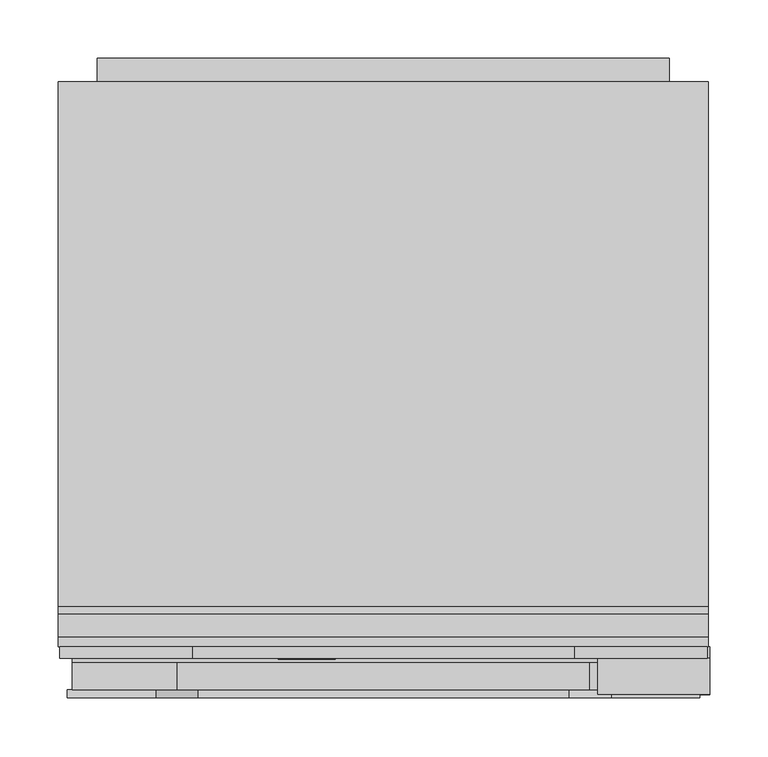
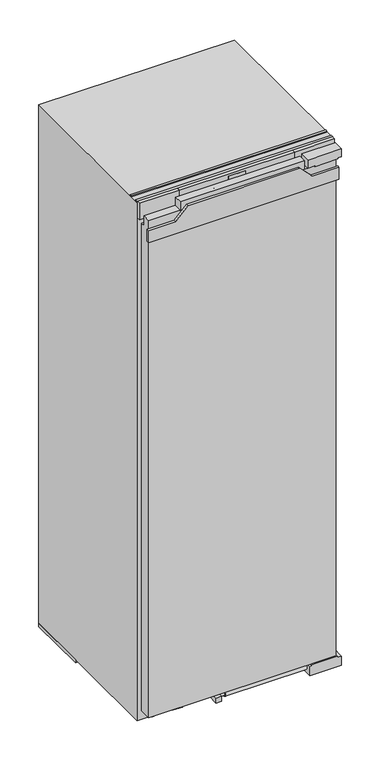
"""IFC4 building model written with IfcOpenShell, lengths in millimetres: proxy geometry, 12444340_CH_K7678D : 36767800_CH_12444340_K7678D."""

from ifc_helpers import new_model, si_unit, point, frame, frame_2d, origin, origin_with_axes, place, context, project, spatial, polyline, circle_curve, ellipse_curve, trimmed, segment, composite_curve, outline, extrude, faceted_brep, source, transform, mapped, element, save
from ifc_brep_helpers import plane_surface, cylinder_surface, revolved_surface, extruded_surface, advanced_brep


def specialty_equipment_4ad7c83d(model_context):
    return source(origin(), model_context, "Body", "SolidModel", [
        advanced_brep(
        [(-46.64, 33.0, 1543.896), (-46.64, 33.0, 1544.704), (-41.288, 33.0, 1544.704), (-50.6, 33.0, 1544.704), (-48.4, 33.0, 1542.0), (-41.424, 33.0, 1543.896), (-43.84, 33.0, 1543.896), (-45.744, 33.0, 1543.0), (-46.64, 33.0, 1545.728), (-46.64, 33.0, 1546.6), (-45.272, 33.0, 1546.6), (-45.272, 33.0, 1545.728), (-46.64, 34.0, 1543.896), (-45.744, 34.0, 1543.0), (-43.84, 34.0, 1543.896), (-41.424, 34.0, 1543.896), (-48.4, 34.0, 1542.0), (-50.6, 34.0, 1544.704), (-41.288, 34.0, 1544.704), (-46.64, 34.0, 1544.704), (-46.64, 34.0, 1545.728), (-45.272, 34.0, 1545.728), (-45.272, 34.0, 1546.6), (-46.64, 34.0, 1546.6)],
        [
            (0, 1),
            (1, 2),
            (2, 3, ellipse_curve(frame((-45.944, 33.0, 1544.704), z_axis=(0.0, -1.0, 0.0), x_axis=(-1.0, 0.0, 0.0)), 4.656, 3.848)),
            (3, 4, circle_curve(frame((-47.5039564, 33.0, 1544.976), z_axis=(0.0, -1.0, 0.0), x_axis=(0.0, 0.0, -1.0)), 3.1079688)),
            (4, 5, circle_curve(frame((-46.0372064, 33.0, 1547.088), z_axis=(0.0, -1.0, 0.0), x_axis=(0.0, 0.0, -1.0)), 5.6098607)),
            (5, 6),
            (6, 7, circle_curve(frame((-45.3529412, 33.0, 1544.64), z_axis=(0.0, 1.0, 0.0), x_axis=(0.0, 0.0, -1.0)), 1.6859795)),
            (7, 0, circle_curve(frame((-45.744, 33.0, 1543.896), z_axis=(0.0, 1.0, 0.0), x_axis=(0.0, 0.0, -1.0)), 0.896)),
            (8, 9),
            (9, 10, circle_curve(frame((-45.956, 33.0, 1546.6), z_axis=(0.0, 1.0, 0.0), x_axis=(0.0, 0.0, -1.0)), 0.684)),
            (10, 11),
            (11, 8),
            (12, 13, circle_curve(frame((-45.744, 34.0, 1543.896), z_axis=(0.0, -1.0, 0.0), x_axis=(0.0, 0.0, -1.0)), 0.896)),
            (13, 14, circle_curve(frame((-45.3529412, 34.0, 1544.64), z_axis=(0.0, -1.0, 0.0), x_axis=(0.0, 0.0, -1.0)), 1.6859795)),
            (14, 15),
            (15, 16, circle_curve(frame((-46.0372064, 34.0, 1547.088), z_axis=(0.0, 1.0, 0.0), x_axis=(0.0, 0.0, -1.0)), 5.6098607)),
            (16, 17, circle_curve(frame((-47.5039564, 34.0, 1544.976), z_axis=(0.0, 1.0, 0.0), x_axis=(0.0, 0.0, -1.0)), 3.1079688)),
            (17, 18, ellipse_curve(frame((-45.944, 34.0, 1544.704), z_axis=(0.0, 1.0, 0.0), x_axis=(-1.0, 0.0, 0.0)), 4.656, 3.848)),
            (18, 19),
            (19, 12),
            (20, 21),
            (21, 22),
            (22, 23, circle_curve(frame((-45.956, 34.0, 1546.6), z_axis=(0.0, -1.0, 0.0), x_axis=(0.0, 0.0, -1.0)), 0.684)),
            (23, 20),
            (0, 12),
            (19, 1),
            (18, 2),
            (5, 15),
            (14, 6),
            (17, 3),
            (13, 7),
            (16, 4),
            (8, 20),
            (23, 9),
            (22, 10),
            (21, 11),
        ],
        [
            plane_surface(frame((-46.64, 33.0, 1544.704), z_axis=(0.0, -1.0, 0.0), x_axis=(0.0, 0.0, 1.0))),
            plane_surface(frame((-46.64, 34.0, 1544.704), z_axis=(0.0, 1.0, 0.0), x_axis=(0.0, 0.0, -1.0))),
            plane_surface(frame((-46.64, 33.0, 1543.896), z_axis=(1.0, 0.0, 0.0), x_axis=(0.0, 1.0, 0.0))),
            plane_surface(frame((-46.64, 33.0, 1544.704), z_axis=(0.0, 0.0, -1.0), x_axis=(0.0, 1.0, 0.0))),
            plane_surface(frame((-41.424, 33.0, 1543.896), z_axis=(0.0, 0.0, 1.0), x_axis=(0.0, 1.0, 0.0))),
            extruded_surface(trimmed(ellipse_curve(frame((-45.944, 35.0, 1544.704), z_axis=(0.0, -1.0, 0.0), x_axis=(-1.0, 0.0, 0.0)), 4.656, 3.848), [point((-41.288, 35.0, 1544.704))], [point((-50.6, 35.0, 1544.704))], True, "CARTESIAN"), (0.0, -1.0, 0.0), 1.0),
            revolved_surface(polyline([(-45.3529412, 34.0, 1542.9540205), (-45.3529412, 33.0, 1542.9540205)]), (-45.3529412, 34.0, 1544.64), (0.0, 1.0, 0.0)),
            revolved_surface(polyline([(-45.744, 34.0, 1543.0), (-45.744, 33.0, 1543.0)]), (-45.744, 34.0, 1543.896), (0.0, 1.0, 0.0)),
            cylinder_surface(frame((-47.5039564, 34.0, 1544.976), z_axis=(0.0, -1.0, 0.0), x_axis=(0.0, 0.0, -1.0)), 3.1079688),
            cylinder_surface(frame((-46.0372064, 34.0, 1547.088), z_axis=(0.0, -1.0, 0.0), x_axis=(0.0, 0.0, -1.0)), 5.6098607),
            plane_surface(frame((-46.64, 33.0, 1545.728), z_axis=(1.0, 0.0, 0.0), x_axis=(0.0, 1.0, 0.0))),
            revolved_surface(polyline([(-45.956, 34.0, 1545.916), (-45.956, 33.0, 1545.916)]), (-45.956, 34.0, 1546.6), (0.0, 1.0, 0.0)),
            plane_surface(frame((-45.272, 33.0, 1546.6), z_axis=(-1.0, 0.0, 0.0), x_axis=(0.0, 1.0, 0.0))),
            plane_surface(frame((-45.272, 33.0, 1545.728), z_axis=(0.0, 0.0, 1.0), x_axis=(0.0, 1.0, 0.0))),
        ],
        [
            (0, [[1, 2, 3, 4, 5, 6, 7, 8], [9, 10, 11, 12]]),
            (1, [[13, 14, 15, 16, 17, 18, 19, 20], [21, 22, 23, 24]]),
            (2, [[-1, 25, -20, 26]]),
            (3, [[-2, -26, -19, 27]]),
            (4, [[-6, 28, -15, 29]]),
            (5, [[-3, -27, -18, 30]]),
            (6, [[-7, -29, -14, 31]]),
            (7, [[-8, -31, -13, -25]]),
            (8, [[-4, -30, -17, 32]]),
            (9, [[-5, -32, -16, -28]]),
            (10, [[-9, 33, -24, 34]]),
            (11, [[-10, -34, -23, 35]]),
            (12, [[-11, -35, -22, 36]]),
            (13, [[-12, -36, -21, -33]]),
        ],
    ),
        advanced_brep(
        [(-63.336, 33.0, 1543.896), (-63.336, 33.0, 1544.704), (-57.984, 33.0, 1544.704), (-67.296, 33.0, 1544.704), (-65.096, 33.0, 1542.0), (-58.12, 33.0, 1543.896), (-60.536, 33.0, 1543.896), (-62.44, 33.0, 1543.0), (-63.336, 33.0, 1545.728), (-63.336, 33.0, 1546.6), (-61.968, 33.0, 1546.6), (-61.968, 33.0, 1545.728), (-63.336, 34.0, 1543.896), (-62.44, 34.0, 1543.0), (-60.536, 34.0, 1543.896), (-58.12, 34.0, 1543.896), (-65.096, 34.0, 1542.0), (-67.296, 34.0, 1544.704), (-57.984, 34.0, 1544.704), (-63.336, 34.0, 1544.704), (-63.336, 34.0, 1545.728), (-61.968, 34.0, 1545.728), (-61.968, 34.0, 1546.6), (-63.336, 34.0, 1546.6)],
        [
            (0, 1),
            (1, 2),
            (2, 3, ellipse_curve(frame((-62.64, 33.0, 1544.704), z_axis=(0.0, -1.0, 0.0), x_axis=(-1.0, 0.0, 0.0)), 4.656, 3.848)),
            (3, 4, circle_curve(frame((-64.1999564, 33.0, 1544.976), z_axis=(0.0, -1.0, 0.0), x_axis=(0.0, 0.0, -1.0)), 3.1079688)),
            (4, 5, circle_curve(frame((-62.7332064, 33.0, 1547.088), z_axis=(0.0, -1.0, 0.0), x_axis=(0.0, 0.0, -1.0)), 5.6098607)),
            (5, 6),
            (6, 7, circle_curve(frame((-62.0489412, 33.0, 1544.64), z_axis=(0.0, 1.0, 0.0), x_axis=(0.0, 0.0, -1.0)), 1.6859795)),
            (7, 0, circle_curve(frame((-62.44, 33.0, 1543.896), z_axis=(0.0, 1.0, 0.0), x_axis=(0.0, 0.0, -1.0)), 0.896)),
            (8, 9),
            (9, 10, circle_curve(frame((-62.652, 33.0, 1546.6), z_axis=(0.0, 1.0, 0.0), x_axis=(0.0, 0.0, -1.0)), 0.684)),
            (10, 11),
            (11, 8),
            (12, 13, circle_curve(frame((-62.44, 34.0, 1543.896), z_axis=(0.0, -1.0, 0.0), x_axis=(0.0, 0.0, -1.0)), 0.896)),
            (13, 14, circle_curve(frame((-62.0489412, 34.0, 1544.64), z_axis=(0.0, -1.0, 0.0), x_axis=(0.0, 0.0, -1.0)), 1.6859795)),
            (14, 15),
            (15, 16, circle_curve(frame((-62.7332064, 34.0, 1547.088), z_axis=(0.0, 1.0, 0.0), x_axis=(0.0, 0.0, -1.0)), 5.6098607)),
            (16, 17, circle_curve(frame((-64.1999564, 34.0, 1544.976), z_axis=(0.0, 1.0, 0.0), x_axis=(0.0, 0.0, -1.0)), 3.1079688)),
            (17, 18, ellipse_curve(frame((-62.64, 34.0, 1544.704), z_axis=(0.0, 1.0, 0.0), x_axis=(-1.0, 0.0, 0.0)), 4.656, 3.848)),
            (18, 19),
            (19, 12),
            (20, 21),
            (21, 22),
            (22, 23, circle_curve(frame((-62.652, 34.0, 1546.6), z_axis=(0.0, -1.0, 0.0), x_axis=(0.0, 0.0, -1.0)), 0.684)),
            (23, 20),
            (0, 12),
            (19, 1),
            (18, 2),
            (5, 15),
            (14, 6),
            (17, 3),
            (13, 7),
            (16, 4),
            (8, 20),
            (23, 9),
            (22, 10),
            (21, 11),
        ],
        [
            plane_surface(frame((-63.336, 33.0, 1544.704), z_axis=(0.0, -1.0, 0.0), x_axis=(0.0, 0.0, 1.0))),
            plane_surface(frame((-63.336, 34.0, 1544.704), z_axis=(0.0, 1.0, 0.0), x_axis=(0.0, 0.0, -1.0))),
            plane_surface(frame((-63.336, 33.0, 1543.896), z_axis=(1.0, 0.0, 0.0), x_axis=(0.0, 1.0, 0.0))),
            plane_surface(frame((-63.336, 33.0, 1544.704), z_axis=(0.0, 0.0, -1.0), x_axis=(0.0, 1.0, 0.0))),
            plane_surface(frame((-58.12, 33.0, 1543.896), z_axis=(0.0, 0.0, 1.0), x_axis=(0.0, 1.0, 0.0))),
            extruded_surface(trimmed(ellipse_curve(frame((-62.64, 35.0, 1544.704), z_axis=(0.0, -1.0, 0.0), x_axis=(-1.0, 0.0, 0.0)), 4.656, 3.848), [point((-57.984, 35.0, 1544.704))], [point((-67.296, 35.0, 1544.704))], True, "CARTESIAN"), (0.0, -1.0, 0.0), 1.0),
            revolved_surface(polyline([(-62.0489412, 34.0, 1542.9540205), (-62.0489412, 33.0, 1542.9540205)]), (-62.0489412, 34.0, 1544.64), (0.0, 1.0, 0.0)),
            revolved_surface(polyline([(-62.44, 34.0, 1543.0), (-62.44, 33.0, 1543.0)]), (-62.44, 34.0, 1543.896), (0.0, 1.0, 0.0)),
            cylinder_surface(frame((-64.1999564, 34.0, 1544.976), z_axis=(0.0, -1.0, 0.0), x_axis=(0.0, 0.0, -1.0)), 3.1079688),
            cylinder_surface(frame((-62.7332064, 34.0, 1547.088), z_axis=(0.0, -1.0, 0.0), x_axis=(0.0, 0.0, -1.0)), 5.6098607),
            plane_surface(frame((-63.336, 33.0, 1545.728), z_axis=(1.0, 0.0, 0.0), x_axis=(0.0, 1.0, 0.0))),
            revolved_surface(polyline([(-62.652, 34.0, 1545.916), (-62.652, 33.0, 1545.916)]), (-62.652, 34.0, 1546.6), (0.0, 1.0, 0.0)),
            plane_surface(frame((-61.968, 33.0, 1546.6), z_axis=(-1.0, 0.0, 0.0), x_axis=(0.0, 1.0, 0.0))),
            plane_surface(frame((-61.968, 33.0, 1545.728), z_axis=(0.0, 0.0, 1.0), x_axis=(0.0, 1.0, 0.0))),
        ],
        [
            (0, [[1, 2, 3, 4, 5, 6, 7, 8], [9, 10, 11, 12]]),
            (1, [[13, 14, 15, 16, 17, 18, 19, 20], [21, 22, 23, 24]]),
            (2, [[-1, 25, -20, 26]]),
            (3, [[-2, -26, -19, 27]]),
            (4, [[-6, 28, -15, 29]]),
            (5, [[-3, -27, -18, 30]]),
            (6, [[-7, -29, -14, 31]]),
            (7, [[-8, -31, -13, -25]]),
            (8, [[-4, -30, -17, 32]]),
            (9, [[-5, -32, -16, -28]]),
            (10, [[-9, 33, -24, 34]]),
            (11, [[-10, -34, -23, 35]]),
            (12, [[-11, -35, -22, 36]]),
            (13, [[-12, -36, -21, -33]]),
        ],
    ),
        extrude(outline(polyline([(1549.528, -72.08), (1548.232, -71.472), (1549.496, -68.76), (1550.792, -69.36), (1549.528, -72.08)])), frame((0.0, 33.0, 0.0), z_axis=(0.0, 1.0, 0.0), x_axis=(0.0, 0.0, 1.0)), (0.0, 0.0, 1.0), 1.0),
        extrude(outline(polyline([(1548.056, -74.056), (1546.624, -74.056), (1546.624, -73.104), (1543.344, -73.104), (1543.344, -74.056), (1542.0, -74.056), (1542.0, -67.744), (1543.344, -67.744), (1543.344, -68.672), (1548.056, -68.672), (1548.056, -74.056)])), frame((0.0, 33.0, 0.0), z_axis=(0.0, 1.0, 0.0), x_axis=(0.0, 0.0, 1.0)), (0.0, 0.0, 1.0), 1.0),
        extrude(outline(polyline([(1548.696, -57.536), (1548.696, -56.576), (1543.344, -56.576), (1543.344, -57.536), (1542.0, -57.536), (1542.0, -51.048), (1543.344, -51.048), (1543.344, -52.032), (1550.0, -52.032), (1550.0, -57.536), (1548.696, -57.536)])), frame((0.0, 33.0, 0.0), z_axis=(0.0, 1.0, 0.0), x_axis=(0.0, 0.0, 1.0)), (0.0, 0.0, 1.0), 1.0),
        extrude(outline(polyline([(1548.696, -90.0), (1548.696, -89.032), (1543.344, -89.032), (1543.344, -90.0), (1542.0, -90.0), (1542.0, -86.48), (1543.344, -86.48), (1543.344, -87.44), (1546.7471247, -87.44), (1542.0, -83.864), (1546.8152223, -80.272), (1543.344, -80.272), (1543.344, -81.256), (1542.0, -81.256), (1542.0, -74.872), (1543.344, -74.872), (1543.344, -75.888), (1548.696, -75.888), (1548.696, -74.872), (1550.0, -74.872), (1550.0, -79.744), (1547.0, -82.08), (1550.0, -84.424), (1550.0, -90.0), (1548.696, -90.0)])), frame((0.0, 33.0, 0.0), z_axis=(0.0, 1.0, 0.0), x_axis=(0.0, 0.0, 1.0)), (0.0, 0.0, 1.0), 1.0),
        faceted_brep([(163.5, 34.0, 1571.0), (-163.5, 34.0, 1571.0), (-163.5, 34.0, 1522.0), (163.5, 34.0, 1522.0), (24.5, 34.0, 1564.0), (24.5, 34.0, 1528.0), (-24.5, 34.0, 1528.0), (-24.5, 34.0, 1564.0), (163.5, 44.0, 1571.0), (163.5, 44.0, 1522.0), (-163.5, 44.0, 1522.0), (-163.5, 44.0, 1571.0), (24.5, 35.0, 1564.0), (-24.5, 35.0, 1564.0), (-24.5, 35.0, 1528.0), (24.5, 35.0, 1528.0)], [[[0, 1, 2, 3], [4, 5, 6, 7]], [[8, 9, 10, 11]], [[0, 3, 9, 8]], [[3, 2, 10, 9]], [[2, 1, 11, 10]], [[1, 0, 8, 11]], [[12, 13, 14, 15]], [[12, 15, 5, 4]], [[15, 14, 6, 5]], [[14, 13, 7, 6]], [[13, 12, 4, 7]]]),
        extrude(outline(polyline([(163.5, 44.0), (277.5, 44.0), (277.5, 34.0), (163.5, 34.0), (163.5, 44.0)])), frame((0.0, 0.0, 1522.0), z_axis=(0.0, 0.0, 1.0), x_axis=(1.0, 0.0, 0.0)), (0.0, 0.0, 1.0), 49.0),
        extrude(outline(polyline([(-277.5, 44.0), (-163.5, 44.0), (-163.5, 34.0), (-277.5, 34.0), (-277.5, 44.0)])), frame((0.0, 0.0, 1522.0), z_axis=(0.0, 0.0, 1.0), x_axis=(1.0, 0.0, 0.0)), (0.0, 0.0, 1.0), 49.0),
        extrude(outline(polyline([(-24.5, 35.0), (24.5, 35.0), (24.5, 34.0), (-24.5, 34.0), (-24.5, 35.0)])), frame((0.0, 0.0, 1528.0), z_axis=(0.0, 0.0, 1.0), x_axis=(1.0, 0.0, 0.0)), (0.0, 0.0, 1.0), 36.0),
        extrude(outline(polyline([(1448.0, -245.0), (27.0, -245.0), (27.0, 245.0), (130.0, 245.0), (130.0, 180.0), (160.0, 180.0), (160.0, 245.0), (1448.0, 245.0), (1448.0, -245.0)])), frame((0.0, 528.0, 0.0), z_axis=(0.0, 1.0, 0.0), x_axis=(0.0, 0.0, 1.0)), (0.0, 0.0, 1.0), 20.0),
        extrude(outline(polyline([(-144.9306211, 52.0), (-174.0, 52.0), (-194.4871197, 348.0), (-165.4177409, 348.0), (-144.9306211, 52.0)])), origin_with_axes(), (0.0, 0.0, 1.0), 10.0),
        extrude(outline(polyline([(144.9306211, 52.0), (165.4177409, 348.0), (194.4871197, 348.0), (174.0, 52.0), (144.9306211, 52.0)])), origin_with_axes(), (0.0, 0.0, 1.0), 10.0),
        extrude(outline(polyline([(539.651012, 148.8988246), (539.651012, 150.150839), (546.8850603, 150.150839), (546.8850603, 140.1043073), (539.5027529, 140.1043073), (539.5027529, 141.3585545), (545.6152499, 141.3585545), (545.6152499, 144.6556887), (539.967462, 144.6556887), (539.967462, 145.9162842), (545.6270824, 145.9162842), (545.6270824, 148.8988246), (539.651012, 148.8988246)])), frame((193.5, 0.0, 0.0), z_axis=(1.0, 0.0, 0.0), x_axis=(0.0, 1.0, 0.0)), (0.0, 0.0, 1.0), 1.0),
        extrude(outline(polyline([(537.624075, 150.150839), (537.624075, 140.1043073), (531.3334819, 140.1043073), (531.3334819, 141.3573374), (536.3334819, 141.3573374), (536.3334819, 150.150839), (537.624075, 150.150839)])), frame((193.5, 0.0, 0.0), z_axis=(1.0, 0.0, 0.0), x_axis=(0.0, 1.0, 0.0)), (0.0, 0.0, 1.0), 1.0),
        advanced_brep(
        [(232.0, 528.0, 145.0), (217.0, 528.0, 145.0), (232.0, 547.5, 145.0), (217.0, 532.5, 145.0), (194.5, 547.5, 145.0), (194.5, 532.5, 145.0)],
        [
            (0, 1, circle_curve(frame((224.5, 528.0, 145.0), z_axis=(0.0, -1.0, 0.0), x_axis=(-1.0, 0.0, 0.0)), 7.5)),
            (1, 0, circle_curve(frame((224.5, 528.0, 145.0), z_axis=(0.0, -1.0, 0.0), x_axis=(-1.0, 0.0, 0.0)), 7.5)),
            (0, 2),
            (2, 3, ellipse_curve(frame((224.5, 540.0, 145.0), z_axis=(0.7071067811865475, -0.7071067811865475, 0.0), x_axis=(-0.7071067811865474, -0.7071067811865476, 0.0)), 10.6066017, 7.5)),
            (3, 1),
            (3, 2, ellipse_curve(frame((224.5, 540.0, 145.0), z_axis=(0.7071067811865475, -0.7071067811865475, 0.0), x_axis=(-0.7071067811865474, -0.7071067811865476, 0.0)), 10.6066017, 7.5)),
            (4, 5, circle_curve(frame((194.5, 540.0, 145.0), z_axis=(-1.0, 0.0, 0.0), x_axis=(0.0, -1.0, 0.0)), 7.5)),
            (5, 4, circle_curve(frame((194.5, 540.0, 145.0), z_axis=(-1.0, 0.0, 0.0), x_axis=(0.0, -1.0, 0.0)), 7.5)),
            (2, 4),
            (5, 3),
        ],
        [
            plane_surface(frame((224.5, 528.0, 145.0), z_axis=(0.0, -1.0, 0.0), x_axis=(0.0, 0.0, 1.0))),
            cylinder_surface(frame((224.5, 528.0, 145.0), z_axis=(0.0, -1.0, 0.0), x_axis=(-1.0, 0.0, 0.0)), 7.5),
            plane_surface(frame((194.5, 540.0, 145.0), z_axis=(-1.0, 0.0, 0.0), x_axis=(0.0, 0.0, 1.0))),
            cylinder_surface(frame((224.5, 540.0, 145.0), z_axis=(1.0, 0.0, 0.0), x_axis=(0.0, -1.0, 0.0)), 7.5),
        ],
        [
            (0, [[1, 2]]),
            (1, [[-1, 3, 4, 5]]),
            (1, [[-2, -5, 6, -3]]),
            (2, [[7, 8]]),
            (3, [[-4, 9, -8, 10]]),
            (3, [[-6, -10, -7, -9]]),
        ],
    ),
        extrude(outline(polyline([(-34.0, 44.0), (34.0, 44.0), (34.0, 35.0), (-34.0, 35.0), (-34.0, 44.0)])), frame((0.0, 0.0, 13.0), z_axis=(0.0, 0.0, 1.0), x_axis=(1.0, 0.0, 0.0)), (0.0, 0.0, 1.0), 19.0),
        extrude(outline(polyline([(-233.5, 44.0), (-233.5, 488.0), (233.5, 488.0), (233.5, 44.0), (-233.5, 44.0)])), frame((0.0, 0.0, 477.0), z_axis=(0.0, 0.0, 1.0), x_axis=(1.0, 0.0, 0.0)), (0.0, 0.0, 1.0), 3.0),
        extrude(outline(polyline([(-233.5, 180.0), (-233.5, 488.0), (233.5, 488.0), (233.5, 180.0), (-233.5, 180.0)])), frame((0.0, 0.0, 1168.0), z_axis=(0.0, 0.0, 1.0), x_axis=(1.0, 0.0, 0.0)), (0.0, 0.0, 1.0), 325.0),
        extrude(outline(polyline([(-233.5, 350.0), (-233.5, 488.0), (233.5, 488.0), (233.5, 350.0), (-233.5, 350.0)])), frame((0.0, 0.0, 62.0), z_axis=(0.0, 0.0, 1.0), x_axis=(1.0, 0.0, 0.0)), (0.0, 0.0, 1.0), 188.0),
        extrude(outline(composite_curve([segment(trimmed(circle_curve(frame_2d((228.0, 64.0)), 11.0), [point((239.0, 64.0))], [point((217.0, 64.0))], False, "CARTESIAN"), True, "CONTINUOUS"), segment(trimmed(circle_curve(frame_2d((228.0, 64.0)), 11.0), [point((217.0, 64.0))], [point((239.0, 64.0))], False, "CARTESIAN"), True, "CONTINUOUS")], self_intersect=False)), origin_with_axes(), (0.0, 0.0, 1.0), 10.0),
        extrude(outline(composite_curve([segment(trimmed(circle_curve(frame_2d((-228.0, 64.0)), 11.0), [point((-217.0, 64.0))], [point((-239.0, 64.0))], False, "CARTESIAN"), True, "CONTINUOUS"), segment(trimmed(circle_curve(frame_2d((-228.0, 64.0)), 11.0), [point((-239.0, 64.0))], [point((-217.0, 64.0))], False, "CARTESIAN"), True, "CONTINUOUS")], self_intersect=False)), origin_with_axes(), (0.0, 0.0, 1.0), 10.0),
        extrude(outline(polyline([(278.5, 528.0), (278.5, 348.0), (-278.5, 348.0), (-278.5, 528.0), (278.5, 528.0)])), origin_with_axes(), (0.0, 0.0, 1.0), 10.0),
        extrude(outline(polyline([(278.5, 52.0), (278.5, 44.0), (-278.5, 44.0), (-278.5, 52.0), (278.5, 52.0)])), frame((0.0, 0.0, 1568.0), z_axis=(0.0, 0.0, 1.0), x_axis=(1.0, 0.0, 0.0)), (0.0, 0.0, 1.0), 3.0),
        extrude(outline(polyline([(278.5, 78.0), (278.5, 72.0), (-278.5, 72.0), (-278.5, 78.0), (278.5, 78.0)])), frame((0.0, 0.0, 1568.0), z_axis=(0.0, 0.0, 1.0), x_axis=(1.0, 0.0, 0.0)), (0.0, 0.0, 1.0), 3.0),
        faceted_brep([(278.5, 528.0, 1568.0), (-278.5, 528.0, 1568.0), (-278.5, 44.0, 1568.0), (278.5, 44.0, 1568.0), (278.5, 528.0, 10.0), (278.5, 44.0, 10.0), (-278.5, 44.0, 10.0), (-278.5, 528.0, 10.0), (233.5, 44.0, 62.0), (-233.5, 44.0, 62.0), (-233.5, 44.0, 570.0), (-233.5, 44.0, 1493.0), (233.5, 44.0, 1493.0), (233.5, 44.0, 570.0), (233.5, 488.0, 1493.0), (-233.5, 488.0, 1493.0), (-233.5, 488.0, 570.0), (-233.5, 488.0, 62.0), (233.5, 488.0, 62.0), (233.5, 488.0, 570.0)], [[[0, 1, 2, 3]], [[4, 5, 6, 7]], [[1, 0, 4, 7]], [[2, 1, 7, 6]], [[3, 2, 6, 5], [8, 9, 10, 11, 12, 13]], [[0, 3, 5, 4]], [[14, 15, 16, 17, 18, 19]], [[18, 8, 13, 12, 14, 19]], [[18, 17, 9, 8]], [[9, 17, 16, 15, 11, 10]], [[15, 14, 12, 11]]]),
        extrude(outline(polyline([(1472.0, 271.0), (1508.0, 271.0), (1508.0, 195.0), (1544.0, 159.0), (1544.0, -159.0), (1508.0, -195.0), (1508.0, -271.0), (1472.0, -271.0), (1472.0, 271.0)])), frame((0.0, 0.0, 0.0), z_axis=(0.0, 1.0, 0.0), x_axis=(0.0, 0.0, 1.0)), (0.0, 0.0, 1.0), 7.0),
        extrude(outline(composite_curve([segment(trimmed(circle_curve(frame_2d((-65.5, 25.0)), 6.5), [point((-72.0, 25.0))], [point((-59.0, 25.0))], False, "CARTESIAN"), True, "CONTINUOUS"), segment(trimmed(circle_curve(frame_2d((-65.5, 25.0)), 6.5), [point((-59.0, 25.0))], [point((-72.0, 25.0))], False, "CARTESIAN"), True, "CONTINUOUS")], self_intersect=False)), frame((0.0, 0.0, 29.0), z_axis=(0.0, 0.0, 1.0), x_axis=(1.0, 0.0, 0.0)), (0.0, 0.0, 1.0), 9.0),
        extrude(outline(polyline([(-74.0, 42.0), (-59.0, 42.0), (-59.0, 8.0), (-74.0, 8.0), (-74.0, 42.0)])), frame((0.0, 0.0, 14.0), z_axis=(0.0, 0.0, 1.0), x_axis=(1.0, 0.0, 0.0)), (0.0, 0.0, 1.0), 15.0),
        extrude(outline(polyline([(176.5, 7.0), (-176.5, 7.0), (-176.5, 30.0), (176.5, 30.0), (176.5, 7.0)])), frame((0.0, 0.0, 1532.0), z_axis=(0.0, 0.0, 1.0), x_axis=(1.0, 0.0, 0.0)), (0.0, 0.0, 1.0), 25.0),
        extrude(outline(polyline([(7.0, 38.0), (7.0, 1532.0), (30.0, 1532.0), (30.0, 1502.0), (44.0, 1502.0), (44.0, 38.0), (7.0, 38.0)])), frame((-266.5, 0.0, 0.0), z_axis=(1.0, 0.0, 0.0), x_axis=(0.0, 1.0, 0.0)), (0.0, 0.0, 1.0), 533.0),
        extrude(outline(polyline([(34.0, 189.5), (7.0, 189.5), (7.0, 279.5), (34.0, 279.5), (34.0, 268.5), (38.0, 268.5), (38.0, 195.5), (34.0, 195.5), (34.0, 189.5)])), frame((0.0, 3.0, 0.0), z_axis=(0.0, 1.0, 0.0), x_axis=(0.0, 0.0, 1.0)), (0.0, 0.0, 1.0), 41.0),
        extrude(outline(polyline([(1532.0, 203.5), (1532.0, 269.5), (1535.0, 269.5), (1535.0, 279.5), (1559.0, 279.5), (1559.0, 183.5), (1535.0, 183.5), (1535.0, 203.5), (1532.0, 203.5)])), frame((0.0, 3.0, 0.0), z_axis=(0.0, 1.0, 0.0), x_axis=(0.0, 0.0, 1.0)), (0.0, 0.0, 1.0), 31.0),
        extrude(outline(composite_curve([segment(trimmed(circle_curve(frame_2d((25.0, 23.0)), 6.0), [point((25.0, 29.0))], [point((25.0, 17.0))], False, "CARTESIAN"), True, "CONTINUOUS"), segment(trimmed(circle_curve(frame_2d((25.0, 23.0)), 6.0), [point((25.0, 17.0))], [point((25.0, 29.0))], False, "CARTESIAN"), True, "CONTINUOUS")], self_intersect=False)), frame((-59.0, 0.0, 0.0), z_axis=(1.0, 0.0, 0.0), x_axis=(0.0, 1.0, 0.0)), (0.0, 0.0, 1.0), 16.0),
        extrude(outline(composite_curve([segment(trimmed(circle_curve(frame_2d((25.0, 23.0)), 9.0), [point((25.0, 32.0))], [point((25.0, 14.0))], False, "CARTESIAN"), True, "CONTINUOUS"), segment(trimmed(circle_curve(frame_2d((25.0, 23.0)), 9.0), [point((25.0, 14.0))], [point((25.0, 32.0))], False, "CARTESIAN"), True, "CONTINUOUS")], self_intersect=False)), frame((-43.0, 0.0, 0.0), z_axis=(1.0, 0.0, 0.0), x_axis=(0.0, 1.0, 0.0)), (0.0, 0.0, 1.0), 232.5),
    ])


if __name__ == "__main__":
    model = new_model("IFC4")
    model_context = context("Model", 3, world=origin())
    ifc_project = project(units=[si_unit("LENGTHUNIT", "METRE", prefix="MILLI")], contexts=[model_context])
    site = spatial("IfcSite", under=ifc_project)
    building = spatial("IfcBuilding", under=site)
    placement = place(None, origin())
    specialty_equipment_shape = specialty_equipment_4ad7c83d(model_context)
    element("IfcBuildingElementProxy", 1, Name="12444340_CH_K7678D : 36767800_CH_12444340_K7678D", ObjectType="12444340_CH_K7678D : 36767800_CH_12444340_K7678D", at=placement, inside=building, context=model_context, shape_type="MappedRepresentation", body=[
        mapped(specialty_equipment_shape, transform((0.0, 0.0, 0.0), x_axis=(1.0, 0.0, 0.0), y_axis=(0.0, 1.0, 0.0), z_axis=(0.0, 0.0, 1.0))),
    ])
    save(model, "model.ifc")
